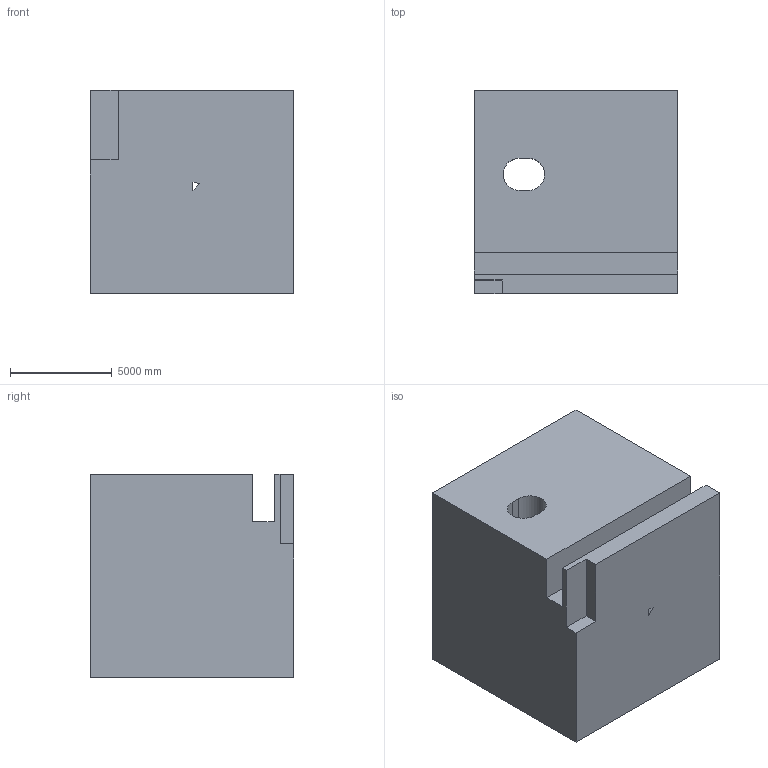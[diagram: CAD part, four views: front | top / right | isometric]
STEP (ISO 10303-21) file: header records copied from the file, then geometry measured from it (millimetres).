
FILE_DESCRIPTION (( 'STEP AP203' ), '1' );
FILE_NAME ('49.STEP', '2022-09-01T11:46:26', ( 'user' ), ( '' ), 'SwSTEP 2.0', 'SolidWorks 2021', '' );
FILE_SCHEMA (( 'CONFIG_CONTROL_DESIGN' ));
Length unit declared in the file: centimetre
Products named in the file (1): 49
Bounding box: 10000 x 10000 x 10000 mm (x, y, z)
Volume: 942647989315 mm3; surface area: 710790015.2 mm2
Topology: 1 solids, 1 shells, 26 faces, 72 edges, 48 vertices
Faces by surface type: plane 23, cylinder 3
Entity records: 908 total; most frequent: CARTESIAN_POINT 147, ORIENTED_EDGE 144, DIRECTION 133, EDGE_CURVE 72, VECTOR 65, LINE 65, VERTEX_POINT 48, AXIS2_PLACEMENT_3D 34
